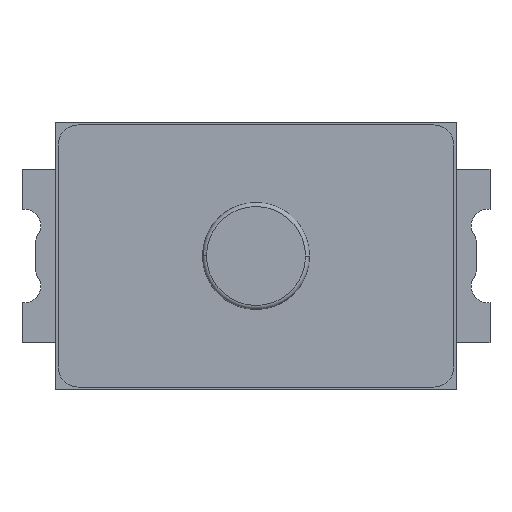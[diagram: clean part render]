
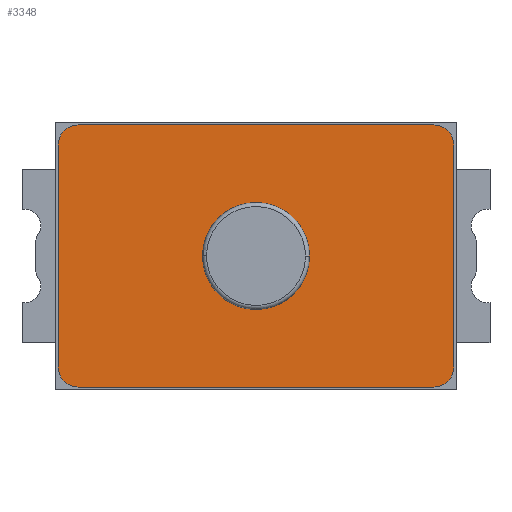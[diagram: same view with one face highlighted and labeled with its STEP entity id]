
A CAD part, front view. The second image highlights one B-rep face of the part: STEP entity #3348.
In plain terms, the highlighted planar face has unit normal (0, -1, 0).
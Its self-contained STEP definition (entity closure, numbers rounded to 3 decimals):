
#1161=CARTESIAN_POINT('',(-1.33,-0.05,0.83));
#1162=DIRECTION('',(0.,1.,0.));
#1163=DIRECTION('',(-1.,0.,0.));
#1164=AXIS2_PLACEMENT_3D('',#1161,#1162,#1163);
#1166=DIRECTION('',(1.,0.,0.));
#1167=VECTOR('',#1166,2.66);
#1168=CARTESIAN_POINT('',(-1.33,-0.05,0.98));
#1169=LINE('',#1168,#1167);
#1170=CARTESIAN_POINT('',(1.33,-0.05,0.83));
#1171=DIRECTION('',(0.,1.,0.));
#1172=DIRECTION('',(0.,0.,1.));
#1173=AXIS2_PLACEMENT_3D('',#1170,#1171,#1172);
#1175=DIRECTION('',(0.,0.,-1.));
#1176=VECTOR('',#1175,1.66);
#1177=CARTESIAN_POINT('',(1.48,-0.05,0.83));
#1178=LINE('',#1177,#1176);
#1179=CARTESIAN_POINT('',(1.33,-0.05,-0.83));
#1180=DIRECTION('',(0.,1.,0.));
#1181=DIRECTION('',(1.,0.,0.));
#1182=AXIS2_PLACEMENT_3D('',#1179,#1180,#1181);
#1184=DIRECTION('',(-1.,0.,0.));
#1185=VECTOR('',#1184,2.66);
#1186=CARTESIAN_POINT('',(1.33,-0.05,-0.98));
#1187=LINE('',#1186,#1185);
#1188=CARTESIAN_POINT('',(-1.33,-0.05,-0.83));
#1189=DIRECTION('',(0.,1.,0.));
#1190=DIRECTION('',(0.,0.,-1.));
#1191=AXIS2_PLACEMENT_3D('',#1188,#1189,#1190);
#1193=DIRECTION('',(0.,0.,1.));
#1194=VECTOR('',#1193,1.66);
#1195=CARTESIAN_POINT('',(-1.48,-0.05,-0.83));
#1196=LINE('',#1195,#1194);
#1197=CARTESIAN_POINT('',(0.,-0.05,0.));
#1198=DIRECTION('',(0.,-1.,0.));
#1199=DIRECTION('',(1.,0.,0.));
#1200=AXIS2_PLACEMENT_3D('',#1197,#1198,#1199);
#1202=CARTESIAN_POINT('',(0.,-0.05,0.));
#1203=DIRECTION('',(0.,-1.,0.));
#1204=DIRECTION('',(-1.,0.,0.));
#1205=AXIS2_PLACEMENT_3D('',#1202,#1203,#1204);
#1425=CARTESIAN_POINT('',(-1.33,-0.05,0.98));
#1426=VERTEX_POINT('',#1425);
#1427=CARTESIAN_POINT('',(-1.48,-0.05,0.83));
#1428=VERTEX_POINT('',#1427);
#1429=CARTESIAN_POINT('',(1.48,-0.05,0.83));
#1430=VERTEX_POINT('',#1429);
#1431=CARTESIAN_POINT('',(1.33,-0.05,0.98));
#1432=VERTEX_POINT('',#1431);
#1433=CARTESIAN_POINT('',(1.33,-0.05,-0.98));
#1434=VERTEX_POINT('',#1433);
#1435=CARTESIAN_POINT('',(1.48,-0.05,-0.83));
#1436=VERTEX_POINT('',#1435);
#1437=CARTESIAN_POINT('',(-1.48,-0.05,-0.83));
#1438=VERTEX_POINT('',#1437);
#1439=CARTESIAN_POINT('',(-1.33,-0.05,-0.98));
#1440=VERTEX_POINT('',#1439);
#1441=CARTESIAN_POINT('',(0.4,-0.05,0.));
#1442=CARTESIAN_POINT('',(-0.4,-0.05,0.));
#1443=VERTEX_POINT('',#1441);
#1444=VERTEX_POINT('',#1442);
#3327=CARTESIAN_POINT('',(0.,-0.05,0.));
#3328=DIRECTION('',(0.,1.,0.));
#3329=DIRECTION('',(1.,0.,0.));
#3330=AXIS2_PLACEMENT_3D('',#3327,#3328,#3329);
#3331=PLANE('',#3330);
#3332=ORIENTED_EDGE('',*,*,#3237,.T.);
#3333=ORIENTED_EDGE('',*,*,#3253,.T.);
#3334=ORIENTED_EDGE('',*,*,#3265,.T.);
#3335=ORIENTED_EDGE('',*,*,#3279,.T.);
#3336=ORIENTED_EDGE('',*,*,#3293,.T.);
#3337=ORIENTED_EDGE('',*,*,#3307,.T.);
#3338=ORIENTED_EDGE('',*,*,#3320,.T.);
#3339=ORIENTED_EDGE('',*,*,#3222,.T.);
#3340=EDGE_LOOP('',(#3332,#3333,#3334,#3335,#3336,#3337,#3338,#3339));
#3341=FACE_OUTER_BOUND('',#3340,.F.);
#3343=ORIENTED_EDGE('',*,*,#3342,.T.);
#3345=ORIENTED_EDGE('',*,*,#3344,.T.);
#3346=EDGE_LOOP('',(#3343,#3345));
#3347=FACE_BOUND('',#3346,.F.);
#1165=CIRCLE('',#1164,0.15);
#1174=CIRCLE('',#1173,0.15);
#1183=CIRCLE('',#1182,0.15);
#1192=CIRCLE('',#1191,0.15);
#1201=CIRCLE('',#1200,0.4);
#1206=CIRCLE('',#1205,0.4);
#3222=EDGE_CURVE('',#1438,#1428,#1196,.T.);
#3237=EDGE_CURVE('',#1428,#1426,#1165,.T.);
#3253=EDGE_CURVE('',#1426,#1432,#1169,.T.);
#3265=EDGE_CURVE('',#1432,#1430,#1174,.T.);
#3279=EDGE_CURVE('',#1430,#1436,#1178,.T.);
#3293=EDGE_CURVE('',#1436,#1434,#1183,.T.);
#3307=EDGE_CURVE('',#1434,#1440,#1187,.T.);
#3320=EDGE_CURVE('',#1440,#1438,#1192,.T.);
#3342=EDGE_CURVE('',#1443,#1444,#1201,.T.);
#3344=EDGE_CURVE('',#1444,#1443,#1206,.T.);
#3348=ADVANCED_FACE('',(#3341,#3347),#3331,.F.);
